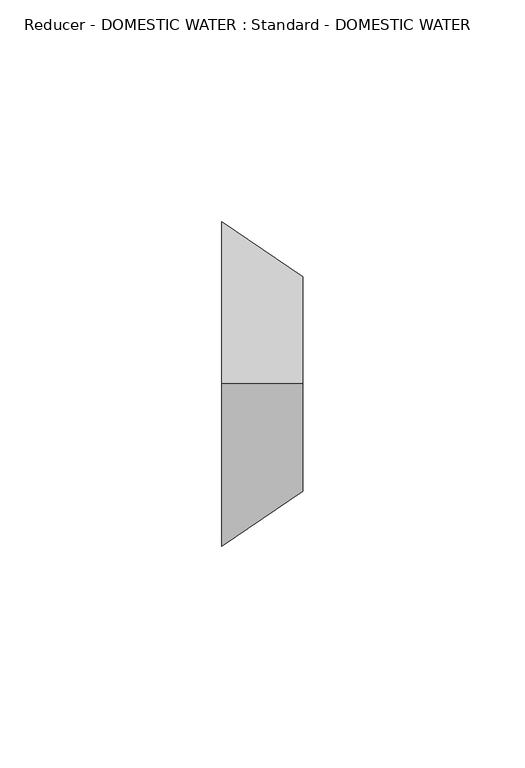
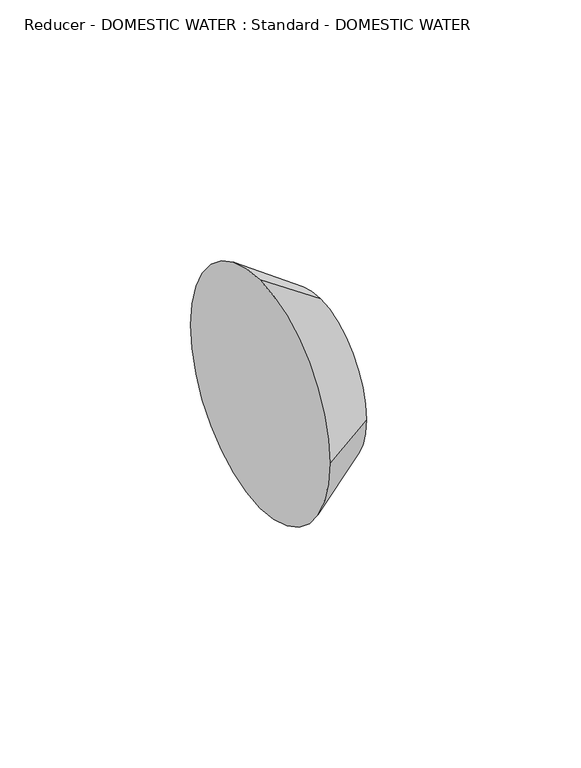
"""IFC4 building model written with IfcOpenShell, lengths in millimetres: pipe fitting geometry, Reducer - DOMESTIC WATER : Standard - DOMESTIC WATER."""

from ifc_helpers import new_model, si_unit, frame, origin, place, context, project, spatial, polyline, circle_curve, source, transform, mapped, element, save
from ifc_brep_helpers import plane_surface, revolved_surface, advanced_brep


def reducer_domestic_water_standard_domestic_water_f7892311(model_context):
    return source(origin(), model_context, "Body", "AdvancedBrep", [
        advanced_brep(
        [(18.25625, 0.0, 24.13), (18.25625, -24.13, 0.0), (18.25625, 0.0, -24.13), (18.25625, 24.13, 0.0), (0.0, 0.0, 36.5125), (0.0, 36.5125, 0.0), (0.0, 0.0, -36.5125), (0.0, -36.5125, 0.0)],
        [
            (0, 1, circle_curve(frame((18.25625, 0.0, 0.0), z_axis=(1.0, 0.0, 0.0), x_axis=(0.0, 0.0, 1.0)), 24.13)),
            (1, 2, circle_curve(frame((18.25625, 0.0, 0.0), z_axis=(1.0, 0.0, 0.0), x_axis=(0.0, -1.0, 0.0)), 24.13)),
            (2, 3, circle_curve(frame((18.25625, 0.0, 0.0), z_axis=(1.0, 0.0, 0.0), x_axis=(0.0, 0.0, -1.0)), 24.13)),
            (3, 0, circle_curve(frame((18.25625, 0.0, 0.0), z_axis=(1.0, 0.0, 0.0), x_axis=(0.0, 1.0, 0.0)), 24.13)),
            (4, 5, circle_curve(frame((0.0, 0.0, 0.0), z_axis=(-1.0, 0.0, 0.0), x_axis=(0.0, 1.0, 0.0)), 36.5125)),
            (5, 6, circle_curve(frame((0.0, 0.0, 0.0), z_axis=(-1.0, 0.0, 0.0), x_axis=(0.0, 0.0, -1.0)), 36.5125)),
            (6, 7, circle_curve(frame((0.0, 0.0, 0.0), z_axis=(-1.0, 0.0, 0.0), x_axis=(0.0, -1.0, 0.0)), 36.5125)),
            (7, 4, circle_curve(frame((0.0, 0.0, 0.0), z_axis=(-1.0, 0.0, 0.0), x_axis=(0.0, 0.0, 1.0)), 36.5125)),
            (7, 1),
            (0, 4),
            (6, 2),
            (5, 3),
        ],
        [
            plane_surface(frame((18.25625, 0.0, 0.0), z_axis=(1.0, 0.0, 0.0), x_axis=(0.0, -1.0, 0.0))),
            plane_surface(frame((0.0, 0.0, 0.0), z_axis=(-1.0, 0.0, 0.0), x_axis=(0.0, -1.0, 0.0))),
            revolved_surface(polyline([(18.25625, 0.0, 24.13000001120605), (0.0, 0.0, 36.5125)]), (53.8325321, 0.0, 0.0), (-1.0, 0.0, 0.0)),
            revolved_surface(polyline([(18.25625, -24.13000001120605, 0.0), (0.0, -36.5125, 0.0)]), (53.8325321, 0.0, 0.0), (-1.0, 0.0, 0.0)),
            revolved_surface(polyline([(18.25625, 0.0, -24.13000001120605), (0.0, 0.0, -36.5125)]), (53.8325321, 0.0, 0.0), (-1.0, 0.0, 0.0)),
            revolved_surface(polyline([(18.25625, 24.13000001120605, 0.0), (0.0, 36.5125, 0.0)]), (53.8325321, 0.0, 0.0), (-1.0, 0.0, 0.0)),
        ],
        [
            (0, [[1, 2, 3, 4]]),
            (1, [[5, 6, 7, 8]]),
            (2, [[-8, 9, -1, 10]]),
            (3, [[-7, 11, -2, -9]]),
            (4, [[-6, 12, -3, -11]]),
            (5, [[-5, -10, -4, -12]]),
        ],
    ),
        advanced_brep(
        [(18.25625, 0.0, 24.13), (18.25625, -24.13, 0.0), (18.25625, 0.0, -24.13), (18.25625, 24.13, 0.0), (0.0, 0.0, 36.5125), (0.0, 36.5125, 0.0), (0.0, 0.0, -36.5125), (0.0, -36.5125, 0.0)],
        [
            (0, 1, circle_curve(frame((18.25625, 0.0, 0.0), z_axis=(1.0, 0.0, 0.0), x_axis=(0.0, 0.0, 1.0)), 24.13)),
            (1, 2, circle_curve(frame((18.25625, 0.0, 0.0), z_axis=(1.0, 0.0, 0.0), x_axis=(0.0, -1.0, 0.0)), 24.13)),
            (2, 3, circle_curve(frame((18.25625, 0.0, 0.0), z_axis=(1.0, 0.0, 0.0), x_axis=(0.0, 0.0, -1.0)), 24.13)),
            (3, 0, circle_curve(frame((18.25625, 0.0, 0.0), z_axis=(1.0, 0.0, 0.0), x_axis=(0.0, 1.0, 0.0)), 24.13)),
            (4, 5, circle_curve(frame((0.0, 0.0, 0.0), z_axis=(-1.0, 0.0, 0.0), x_axis=(0.0, 1.0, 0.0)), 36.5125)),
            (5, 6, circle_curve(frame((0.0, 0.0, 0.0), z_axis=(-1.0, 0.0, 0.0), x_axis=(0.0, 0.0, -1.0)), 36.5125)),
            (6, 7, circle_curve(frame((0.0, 0.0, 0.0), z_axis=(-1.0, 0.0, 0.0), x_axis=(0.0, -1.0, 0.0)), 36.5125)),
            (7, 4, circle_curve(frame((0.0, 0.0, 0.0), z_axis=(-1.0, 0.0, 0.0), x_axis=(0.0, 0.0, 1.0)), 36.5125)),
            (7, 1),
            (0, 4),
            (6, 2),
            (5, 3),
        ],
        [
            plane_surface(frame((18.25625, 0.0, 0.0), z_axis=(1.0, 0.0, 0.0), x_axis=(0.0, -1.0, 0.0))),
            plane_surface(frame((0.0, 0.0, 0.0), z_axis=(-1.0, 0.0, 0.0), x_axis=(0.0, -1.0, 0.0))),
            revolved_surface(polyline([(18.25625, 0.0, 24.13000001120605), (0.0, 0.0, 36.5125)]), (53.8325321, 0.0, 0.0), (-1.0, 0.0, 0.0)),
            revolved_surface(polyline([(18.25625, -24.13000001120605, 0.0), (0.0, -36.5125, 0.0)]), (53.8325321, 0.0, 0.0), (-1.0, 0.0, 0.0)),
            revolved_surface(polyline([(18.25625, 0.0, -24.13000001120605), (0.0, 0.0, -36.5125)]), (53.8325321, 0.0, 0.0), (-1.0, 0.0, 0.0)),
            revolved_surface(polyline([(18.25625, 24.13000001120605, 0.0), (0.0, 36.5125, 0.0)]), (53.8325321, 0.0, 0.0), (-1.0, 0.0, 0.0)),
        ],
        [
            (0, [[1, 2, 3, 4]]),
            (1, [[5, 6, 7, 8]]),
            (2, [[-8, 9, -1, 10]]),
            (3, [[-7, 11, -2, -9]]),
            (4, [[-6, 12, -3, -11]]),
            (5, [[-5, -10, -4, -12]]),
        ],
    ),
    ])


if __name__ == "__main__":
    model = new_model("IFC4")
    model_context = context("Model", 3, world=origin())
    ifc_project = project(units=[si_unit("LENGTHUNIT", "METRE", prefix="MILLI")], contexts=[model_context])
    site = spatial("IfcSite", under=ifc_project)
    building = spatial("IfcBuilding", under=site)
    placement = place(None, origin())
    reducer_domestic_water_standard_domestic_water_shape = reducer_domestic_water_standard_domestic_water_f7892311(model_context)
    element("IfcPipeFitting", 1, ObjectType="Reducer - DOMESTIC WATER : Standard - DOMESTIC WATER", at=placement, inside=building, context=model_context, shape_type="MappedRepresentation", body=[
        mapped(reducer_domestic_water_standard_domestic_water_shape, transform((0.0, 0.0, 0.0), x_axis=(1.0, 0.0, 0.0), y_axis=(0.0, 1.0, 0.0), z_axis=(0.0, 0.0, 1.0))),
    ])
    save(model, "model.ifc")
